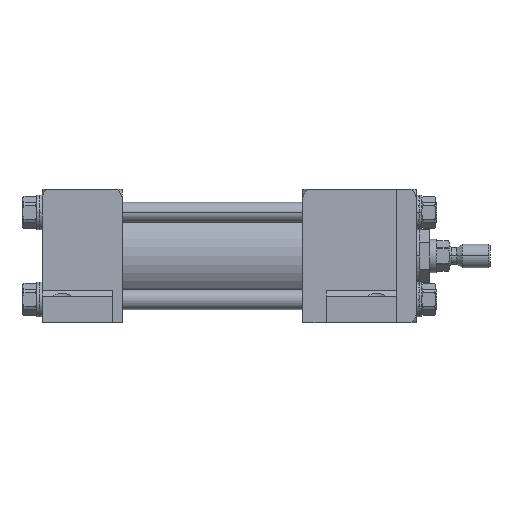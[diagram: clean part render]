
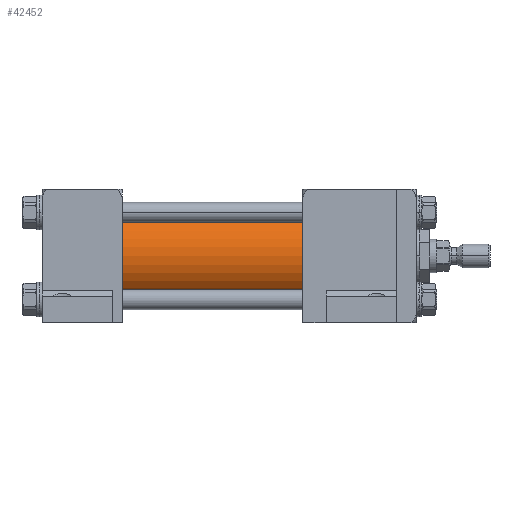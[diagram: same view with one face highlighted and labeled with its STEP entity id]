
A CAD part, front view. The second image highlights one B-rep face of the part: STEP entity #42452.
In plain terms, the highlighted cylindrical face has radius 23.812 mm (diameter 47.625 mm), a partial arc.
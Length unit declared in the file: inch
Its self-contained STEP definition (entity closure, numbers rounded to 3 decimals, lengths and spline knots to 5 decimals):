
#2137 = CARTESIAN_POINT ( 'NONE',  ( -6.375, 0., 0.9375 ) ) ;
#3413 = ORIENTED_EDGE ( 'NONE', *, *, #35485, .T. ) ;
#3882 = VECTOR ( 'NONE', #30562, 39.37008 ) ;
#4825 = FACE_OUTER_BOUND ( 'NONE', #32990, .T. ) ;
#6463 = LINE ( 'NONE', #21733, #3882 ) ;
#9893 = AXIS2_PLACEMENT_3D ( 'NONE', #40006, #58803, #12146 ) ;
#10260 = LINE ( 'NONE', #44354, #21187 ) ;
#10895 = ORIENTED_EDGE ( 'NONE', *, *, #29062, .T. ) ;
#12146 = DIRECTION ( 'NONE',  ( 0., 1., 0. ) ) ;
#12888 = CARTESIAN_POINT ( 'NONE',  ( -2.5, 0., 0. ) ) ;
#14822 = CIRCLE ( 'NONE', #9893, 0.9375 ) ;
#15572 = VERTEX_POINT ( 'NONE', #27105 ) ;
#18462 = CARTESIAN_POINT ( 'NONE',  ( -6.375, 0., -0.9375 ) ) ;
#19885 = VERTEX_POINT ( 'NONE', #2137 ) ;
#21187 = VECTOR ( 'NONE', #39950, 39.37008 ) ;
#21733 = CARTESIAN_POINT ( 'NONE',  ( -6.375, 0., -0.9375 ) ) ;
#23177 = ORIENTED_EDGE ( 'NONE', *, *, #37488, .F. ) ;
#25909 = CIRCLE ( 'NONE', #33919, 0.9375 ) ;
#27105 = CARTESIAN_POINT ( 'NONE',  ( -2.5, 0., 0.9375 ) ) ;
#29062 = EDGE_CURVE ( 'NONE', #19885, #36693, #14822, .T. ) ;
#30562 = DIRECTION ( 'NONE',  ( 1., 0., 0. ) ) ;
#30795 = EDGE_CURVE ( 'NONE', #19885, #15572, #10260, .T. ) ;
#32990 = EDGE_LOOP ( 'NONE', ( #51022, #10895, #3413, #23177 ) ) ;
#33919 = AXIS2_PLACEMENT_3D ( 'NONE', #12888, #51057, #50439 ) ;
#35485 = EDGE_CURVE ( 'NONE', #36693, #58220, #6463, .T. ) ;
#36693 = VERTEX_POINT ( 'NONE', #18462 ) ;
#37488 = EDGE_CURVE ( 'NONE', #15572, #58220, #25909, .T. ) ;
#39950 = DIRECTION ( 'NONE',  ( 1., 0., 0. ) ) ;
#40006 = CARTESIAN_POINT ( 'NONE',  ( -6.375, 0., 0. ) ) ;
#40341 = CARTESIAN_POINT ( 'NONE',  ( -2.5, 0., -0.9375 ) ) ;
#42452 = ADVANCED_FACE ( 'NONE', ( #4825 ), #52345, .T. ) ;
#44354 = CARTESIAN_POINT ( 'NONE',  ( -6.375, 0., 0.9375 ) ) ;
#44487 = DIRECTION ( 'NONE',  ( 0., 0., -1. ) ) ;
#44806 = DIRECTION ( 'NONE',  ( 1., 0., 0. ) ) ;
#49789 = CARTESIAN_POINT ( 'NONE',  ( -6.375, 0., 0. ) ) ;
#50439 = DIRECTION ( 'NONE',  ( 0., 1., 0. ) ) ;
#51022 = ORIENTED_EDGE ( 'NONE', *, *, #30795, .F. ) ;
#51057 = DIRECTION ( 'NONE',  ( 1., 0., 0. ) ) ;
#52345 = CYLINDRICAL_SURFACE ( 'NONE', #54485, 0.9375 ) ;
#54485 = AXIS2_PLACEMENT_3D ( 'NONE', #49789, #44806, #44487 ) ;
#58220 = VERTEX_POINT ( 'NONE', #40341 ) ;
#58803 = DIRECTION ( 'NONE',  ( 1., 0., 0. ) ) ;
